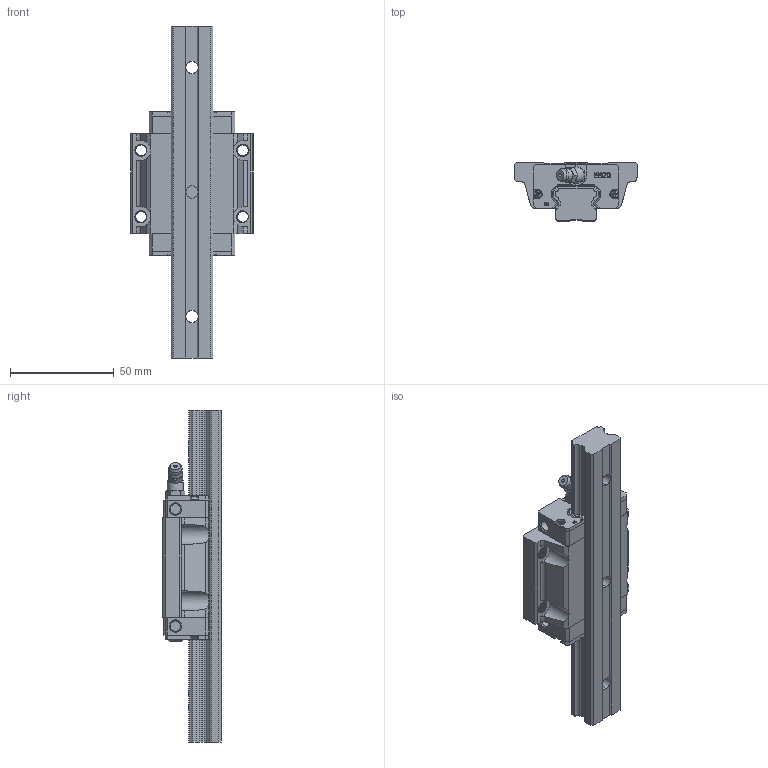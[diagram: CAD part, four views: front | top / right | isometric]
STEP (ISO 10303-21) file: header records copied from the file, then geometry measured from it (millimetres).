
FILE_DESCRIPTION(/* description */ (''),/* implementation_level */ '2;1');
FILE_NAME(/* name */ 'EBW20CA.stp',/* time_stamp */ '2024-09-29T20:44:37+08:00',/* author */ (''),/* organization */ (''),/* preprocessor_version */ 'ST-DEVELOPER v16.7',/* originating_system */ 'SIEMENS PLM Software NX 12.0',/* authorisation */ '');
FILE_SCHEMA (('AUTOMOTIVE_DESIGN { 1 0 10303 214 3 1 1 1 }'));
Products named in the file (3): EBW20CA; EBR20; EBW20CA_stp
Assembly tree (2 placements, depth 2):
  EBW20CA_stp
    EBR20
    EBW20CA
Bounding box: 59 x 28 x 160 mm (x, y, z)
Volume: 100841.4 mm3; surface area: 30983.5 mm2
Topology: 2 solids, 3 shells, 932 faces, 2584 edges, 1704 vertices
Faces by surface type: plane 534, cylinder 172, extrusion 137, cone 53, bspline 23, torus 12, sphere 1
Full cylindrical faces by diameter (mm): 3 x1, 3.7 x1, 5 x4, 5.9 x2, 6 x2, 7.8 x1, 8.3 x1
Entity records: 54196 total; most frequent: CARTESIAN_POINT 25514, ORIENTED_EDGE 5060, DIRECTION 4079, EDGE_CURVE 2530, VERTEX_POINT 1685, VECTOR 1617, LINE 1480, AXIS2_PLACEMENT_3D 1231
